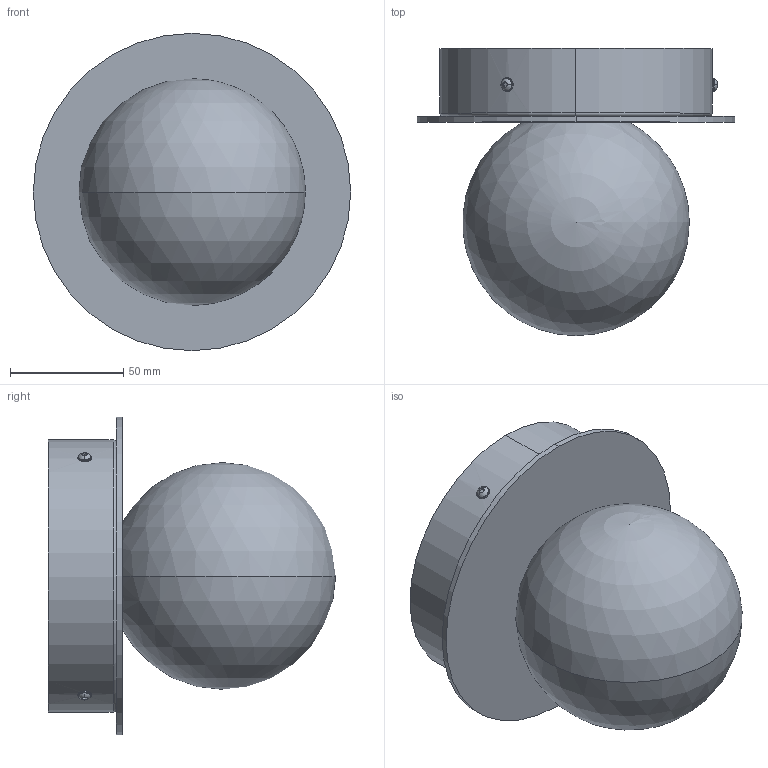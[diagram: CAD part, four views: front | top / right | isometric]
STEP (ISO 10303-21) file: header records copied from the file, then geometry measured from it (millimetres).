
FILE_DESCRIPTION (( 'STEP AP203' ), '1' );
FILE_NAME ('UPKI1001XXXXXXX-PER 3D.STEP', '2026-07-07T16:47:11', ( '' ), ( '' ), 'SwSTEP 2.0', 'SolidWorks 2026', '' );
FILE_SCHEMA (( 'CONFIG_CONTROL_DESIGN' ));
Length unit declared in the file: millimetre
Products named in the file (7): WSVAXXX0100BC7XX00; WSCM2F0039-0100-00; UPKI1001XXXXXXX-PER 3D; Rondella_M3_Dentellata Interna; ISO7380_M3_H08; WSCM2C0201-0700-02_WSCM2C0201-0700-02; WSCM2C0262-1200-01
Assembly tree (10 placements, depth 2):
  UPKI1001XXXXXXX-PER 3D
    WSCM2C0201-0700-02_WSCM2C0201-0700-02
    WSVAXXX0100BC7XX00
    WSCM2F0039-0100-00
    WSCM2C0262-1200-01
    Rondella_M3_Dentellata Interna  x3
    ISO7380_M3_H08  x3
Bounding box: 140 x 126.66 x 140 mm (x, y, z)
Volume: 186319.1 mm3; surface area: 154600.1 mm2
Topology: 10 solids, 10 shells, 374 faces, 992 edges, 642 vertices
Faces by surface type: bspline 144, cylinder 97, plane 97, cone 22, sphere 10, torus 4
Entity records: 8805 total; most frequent: CARTESIAN_POINT 2453, ORIENTED_EDGE 1188, DIRECTION 1054, EDGE_CURVE 594, VERTEX_POINT 380, AXIS2_PLACEMENT_3D 377, LINE 300, VECTOR 300
